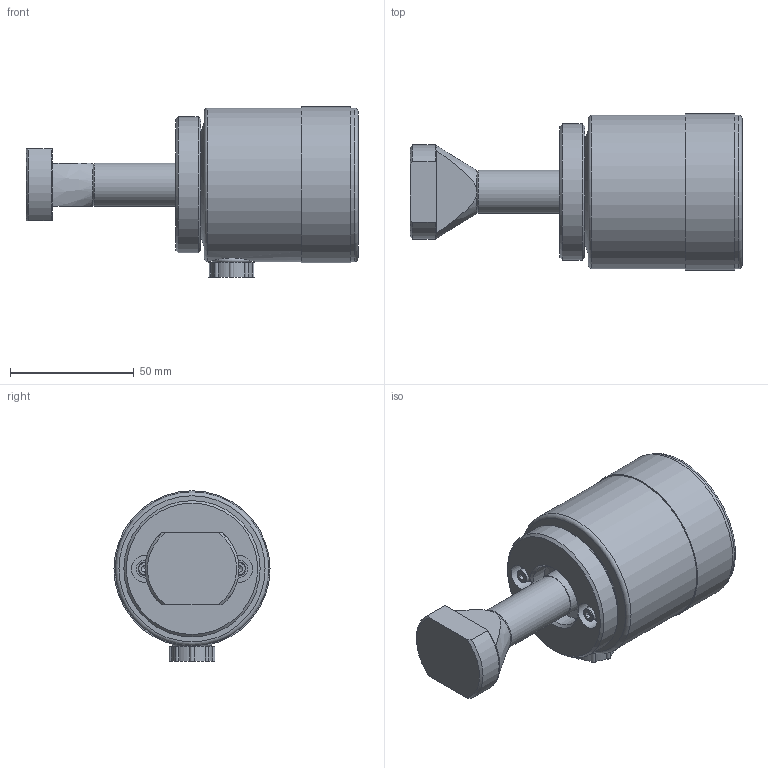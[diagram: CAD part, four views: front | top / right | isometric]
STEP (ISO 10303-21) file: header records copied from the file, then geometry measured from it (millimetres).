
FILE_DESCRIPTION(/* description */ (''),/* implementation_level */ '2;1');
FILE_NAME(/* name */ 'S:\EASCN Vault\Designs\Standard Part\MOULDCLAMPS\MHC\MHC-50\MHC50-18-XX_(20200410).stp',/* time_stamp */ '2020-04-10T13:10:40+08:00',/* author */ ('yue.yang'),/* organization */ (''),/* preprocessor_version */ 'ST-DEVELOPER v17',/* originating_system */ 'Autodesk Inventor 2019',/* authorisation */ '');
FILE_SCHEMA (('AUTOMOTIVE_DESIGN { 1 0 10303 214 3 1 1 }'));
Length unit declared in the file: millimetre
Products named in the file (1): MHC50-18-XX_Shrinkwrap_1
Bounding box: 134 x 63 x 68.8 mm (x, y, z)
Volume: 271212.8 mm3; surface area: 44588.7 mm2
Topology: 11 solids, 11 shells, 134 faces, 351 edges, 245 vertices
Faces by surface type: plane 53, cylinder 49, cone 23, torus 7, sphere 2
Full cylindrical faces by diameter (mm): 3 x2, 4.2 x2, 5.5 x2, 6 x2, 7 x2, 10.8 x1, 11 x2, 11.445 x1, 13.157 x1, 13.5 x1, 14.1 x1, 16 x2, 17.5 x1, 17.95 x1, 19 x1, 26 x1, 36.8 x1, 50 x1, 55 x1, 62 x2, 63 x1
Entity records: 4644 total; most frequent: CARTESIAN_POINT 992, DIRECTION 772, ORIENTED_EDGE 694, EDGE_CURVE 347, AXIS2_PLACEMENT_3D 335, VERTEX_POINT 245, CIRCLE 200, EDGE_LOOP 156
